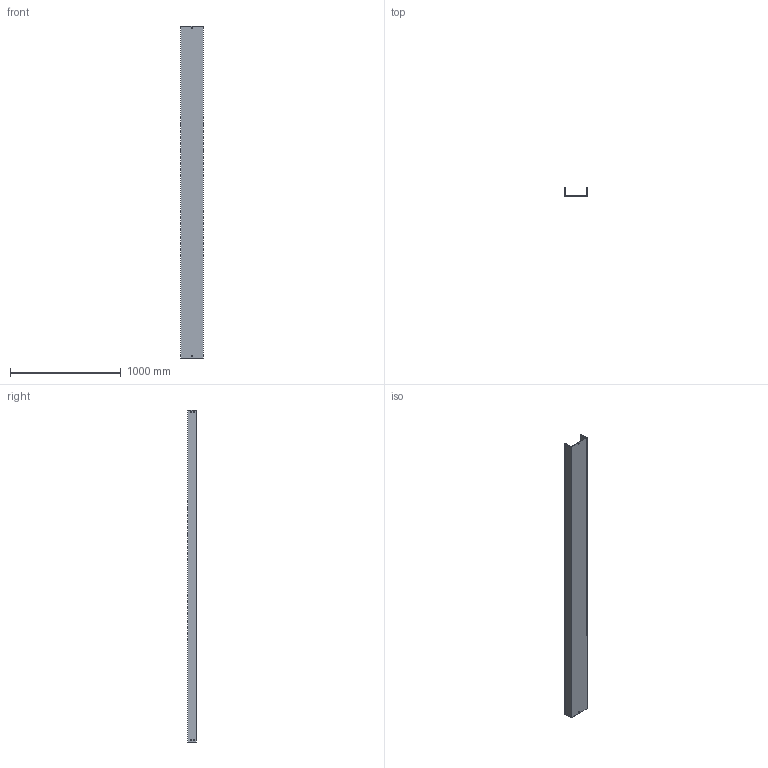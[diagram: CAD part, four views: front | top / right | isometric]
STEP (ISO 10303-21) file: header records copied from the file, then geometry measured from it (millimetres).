
FILE_DESCRIPTION (( 'STEP AP214' ), '1' );
FILE_NAME ('03B3C200.step', '2025-02-21T10:22:37', ( '' ), ( '' ), 'SwSTEP 2.0', 'SolidWorks 2023', '' );
FILE_SCHEMA (( 'AUTOMOTIVE_DESIGN' ));
Length unit declared in the file: millimetre
Products named in the file (1): 03B3C200
Bounding box: 204 x 79 x 3000 mm (x, y, z)
Volume: 3725130.5 mm3; surface area: 2153300 mm2
Topology: 1 solids, 1 shells, 50 faces, 144 edges, 96 vertices
Faces by surface type: plane 50
Entity records: 1671 total; most frequent: CARTESIAN_POINT 291, ORIENTED_EDGE 288, DIRECTION 246, LINE 144, VECTOR 144, EDGE_CURVE 144, VERTEX_POINT 96, EDGE_LOOP 70
